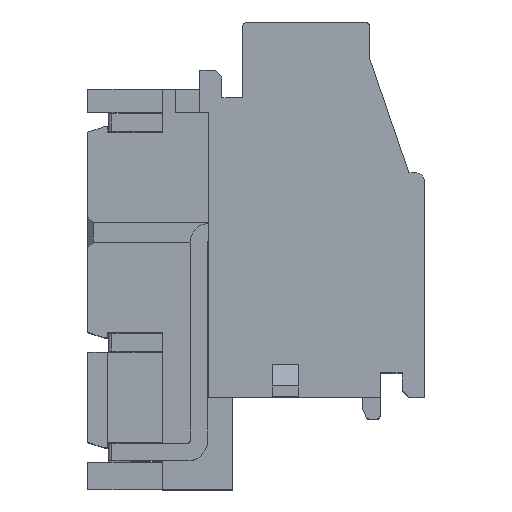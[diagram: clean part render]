
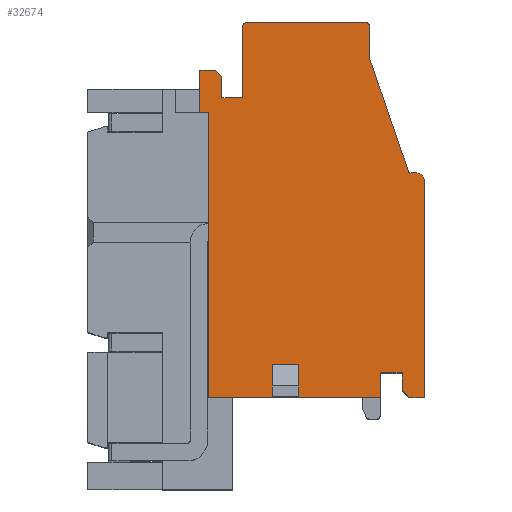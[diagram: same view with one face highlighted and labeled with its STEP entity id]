
A CAD part, top view. The second image highlights one B-rep face of the part: STEP entity #32674.
In plain terms, the highlighted planar face has unit normal (0, 0, 1).
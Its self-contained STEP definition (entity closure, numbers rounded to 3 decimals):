
#1=DIRECTION('',(-0.707,0.707,0.));
#2=VECTOR('',#1,0.424);
#3=CARTESIAN_POINT('',(0.6,14.55,10.));
#4=LINE('',#3,#2);
#5=CARTESIAN_POINT('',(1.75,16.85,10.));
#6=DIRECTION('',(0.,0.,1.));
#7=DIRECTION('',(0.,1.,0.));
#8=AXIS2_PLACEMENT_3D('',#5,#6,#7);
#10=CARTESIAN_POINT('',(7.1,16.85,10.));
#11=DIRECTION('',(0.,0.,1.));
#12=DIRECTION('',(1.,0.,0.));
#13=AXIS2_PLACEMENT_3D('',#10,#11,#12);
#15=DIRECTION('',(-0.324,0.946,0.));
#16=VECTOR('',#15,5.55);
#17=CARTESIAN_POINT('',(9.1,10.2,10.));
#18=LINE('',#17,#16);
#19=CARTESIAN_POINT('',(9.4,9.8,10.));
#20=DIRECTION('',(0.,0.,1.));
#21=DIRECTION('',(1.,0.,0.));
#22=AXIS2_PLACEMENT_3D('',#19,#20,#21);
#24=DIRECTION('',(0.707,-0.707,0.));
#25=VECTOR('',#24,0.424);
#26=CARTESIAN_POINT('',(8.8,0.3,10.));
#27=LINE('',#26,#25);
#28=DIRECTION('',(-1.,0.,0.));
#29=VECTOR('',#28,2.9);
#30=CARTESIAN_POINT('',(2.9,0.,10.));
#31=LINE('',#30,#29);
#36=DIRECTION('',(-1.,0.,0.));
#37=VECTOR('',#36,3.7);
#38=CARTESIAN_POINT('',(7.8,0.,10.));
#39=LINE('',#38,#37);
#48=DIRECTION('',(0.,1.,0.));
#49=VECTOR('',#48,12.95);
#50=CARTESIAN_POINT('',(0.,0.,10.));
#51=LINE('',#50,#49);
#434=DIRECTION('',(1.,0.,0.));
#435=VECTOR('',#434,5.35);
#436=CARTESIAN_POINT('',(1.75,17.05,10.));
#437=LINE('',#436,#435);
#5380=DIRECTION('',(0.,1.,0.));
#5381=VECTOR('',#5380,1.9);
#5382=CARTESIAN_POINT('',(-0.4,12.95,10.));
#5383=LINE('',#5382,#5381);
#5392=DIRECTION('',(1.,0.,0.));
#5393=VECTOR('',#5392,0.7);
#5394=CARTESIAN_POINT('',(-0.4,14.85,10.));
#5395=LINE('',#5394,#5393);
#5404=DIRECTION('',(0.,-1.,0.));
#5405=VECTOR('',#5404,0.95);
#5406=CARTESIAN_POINT('',(0.6,14.55,10.));
#5407=LINE('',#5406,#5405);
#5416=DIRECTION('',(1.,0.,0.));
#5417=VECTOR('',#5416,0.95);
#5418=CARTESIAN_POINT('',(0.6,13.6,10.));
#5419=LINE('',#5418,#5417);
#5420=DIRECTION('',(0.,1.,0.));
#5421=VECTOR('',#5420,3.25);
#5422=CARTESIAN_POINT('',(1.55,13.6,10.));
#5423=LINE('',#5422,#5421);
#5444=DIRECTION('',(-1.,0.,0.));
#5445=VECTOR('',#5444,0.4);
#5446=CARTESIAN_POINT('',(0.,12.95,10.));
#5447=LINE('',#5446,#5445);
#18038=DIRECTION('',(0.,1.,0.));
#18039=VECTOR('',#18038,0.8);
#18040=CARTESIAN_POINT('',(8.8,0.3,10.));
#18041=LINE('',#18040,#18039);
#18046=DIRECTION('',(-1.,0.,0.));
#18047=VECTOR('',#18046,1.);
#18048=CARTESIAN_POINT('',(8.8,1.1,10.));
#18049=LINE('',#18048,#18047);
#18050=DIRECTION('',(0.,-1.,0.));
#18051=VECTOR('',#18050,1.1);
#18052=CARTESIAN_POINT('',(7.8,1.1,10.));
#18053=LINE('',#18052,#18051);
#18411=DIRECTION('',(0.,-1.,0.));
#18412=VECTOR('',#18411,9.8);
#18413=CARTESIAN_POINT('',(9.8,9.8,10.));
#18414=LINE('',#18413,#18412);
#22445=DIRECTION('',(-1.,0.,0.));
#22446=VECTOR('',#22445,0.7);
#22447=CARTESIAN_POINT('',(9.8,0.,10.));
#22448=LINE('',#22447,#22446);
#22461=DIRECTION('',(1.,0.,0.));
#22462=VECTOR('',#22461,0.3);
#22463=CARTESIAN_POINT('',(9.1,10.2,10.));
#22464=LINE('',#22463,#22462);
#22473=DIRECTION('',(0.,-1.,0.));
#22474=VECTOR('',#22473,1.4);
#22475=CARTESIAN_POINT('',(7.3,16.85,10.));
#22476=LINE('',#22475,#22474);
#28655=DIRECTION('',(0.,-1.,0.));
#28656=VECTOR('',#28655,1.5);
#28657=CARTESIAN_POINT('',(2.9,1.5,10.));
#28658=LINE('',#28657,#28656);
#28663=DIRECTION('',(-1.,0.,0.));
#28664=VECTOR('',#28663,1.2);
#28665=CARTESIAN_POINT('',(4.1,1.5,10.));
#28666=LINE('',#28665,#28664);
#28671=DIRECTION('',(0.,1.,0.));
#28672=VECTOR('',#28671,1.5);
#28673=CARTESIAN_POINT('',(4.1,0.,10.));
#28674=LINE('',#28673,#28672);
#28691=CARTESIAN_POINT('',(4.1,0.,10.));
#28692=CARTESIAN_POINT('',(4.1,1.5,10.));
#28693=VERTEX_POINT('',#28691);
#28694=VERTEX_POINT('',#28692);
#28695=CARTESIAN_POINT('',(2.9,1.5,10.));
#28696=VERTEX_POINT('',#28695);
#28697=CARTESIAN_POINT('',(2.9,0.,10.));
#28698=VERTEX_POINT('',#28697);
#28699=CARTESIAN_POINT('',(0.,0.,10.));
#28700=VERTEX_POINT('',#28699);
#28701=CARTESIAN_POINT('',(0.,12.95,10.));
#28702=VERTEX_POINT('',#28701);
#28703=CARTESIAN_POINT('',(-0.4,12.95,10.));
#28704=VERTEX_POINT('',#28703);
#28705=CARTESIAN_POINT('',(-0.4,14.85,10.));
#28706=VERTEX_POINT('',#28705);
#28707=CARTESIAN_POINT('',(0.3,14.85,10.));
#28708=VERTEX_POINT('',#28707);
#28709=CARTESIAN_POINT('',(0.6,14.55,10.));
#28710=VERTEX_POINT('',#28709);
#28711=CARTESIAN_POINT('',(0.6,13.6,10.));
#28712=VERTEX_POINT('',#28711);
#28713=CARTESIAN_POINT('',(1.55,13.6,10.));
#28714=VERTEX_POINT('',#28713);
#28715=CARTESIAN_POINT('',(1.55,16.85,10.));
#28716=VERTEX_POINT('',#28715);
#28717=CARTESIAN_POINT('',(1.75,17.05,10.));
#28718=VERTEX_POINT('',#28717);
#28719=CARTESIAN_POINT('',(7.1,17.05,10.));
#28720=VERTEX_POINT('',#28719);
#28721=CARTESIAN_POINT('',(7.3,16.85,10.));
#28722=VERTEX_POINT('',#28721);
#28723=CARTESIAN_POINT('',(7.3,15.45,10.));
#28724=VERTEX_POINT('',#28723);
#28725=CARTESIAN_POINT('',(9.1,10.2,10.));
#28726=VERTEX_POINT('',#28725);
#28727=CARTESIAN_POINT('',(9.4,10.2,10.));
#28728=VERTEX_POINT('',#28727);
#28729=CARTESIAN_POINT('',(9.8,9.8,10.));
#28730=VERTEX_POINT('',#28729);
#28731=CARTESIAN_POINT('',(9.8,0.,10.));
#28732=VERTEX_POINT('',#28731);
#28733=CARTESIAN_POINT('',(9.1,0.,10.));
#28734=VERTEX_POINT('',#28733);
#28735=CARTESIAN_POINT('',(8.8,0.3,10.));
#28736=VERTEX_POINT('',#28735);
#28737=CARTESIAN_POINT('',(8.8,1.1,10.));
#28738=VERTEX_POINT('',#28737);
#28739=CARTESIAN_POINT('',(7.8,1.1,10.));
#28740=VERTEX_POINT('',#28739);
#28741=CARTESIAN_POINT('',(7.8,0.,10.));
#28742=VERTEX_POINT('',#28741);
#32615=CARTESIAN_POINT('',(0.,0.,10.));
#32616=DIRECTION('',(0.,0.,1.));
#32617=DIRECTION('',(1.,0.,0.));
#32618=AXIS2_PLACEMENT_3D('',#32615,#32616,#32617);
#32619=PLANE('',#32618);
#32621=ORIENTED_EDGE('',*,*,#32620,.T.);
#32623=ORIENTED_EDGE('',*,*,#32622,.T.);
#32625=ORIENTED_EDGE('',*,*,#32624,.T.);
#32627=ORIENTED_EDGE('',*,*,#32626,.T.);
#32629=ORIENTED_EDGE('',*,*,#32628,.T.);
#32631=ORIENTED_EDGE('',*,*,#32630,.T.);
#32633=ORIENTED_EDGE('',*,*,#32632,.T.);
#32635=ORIENTED_EDGE('',*,*,#32634,.T.);
#32637=ORIENTED_EDGE('',*,*,#32636,.T.);
#32639=ORIENTED_EDGE('',*,*,#32638,.F.);
#32641=ORIENTED_EDGE('',*,*,#32640,.T.);
#32643=ORIENTED_EDGE('',*,*,#32642,.T.);
#32645=ORIENTED_EDGE('',*,*,#32644,.T.);
#32647=ORIENTED_EDGE('',*,*,#32646,.F.);
#32649=ORIENTED_EDGE('',*,*,#32648,.T.);
#32651=ORIENTED_EDGE('',*,*,#32650,.F.);
#32653=ORIENTED_EDGE('',*,*,#32652,.T.);
#32655=ORIENTED_EDGE('',*,*,#32654,.F.);
#32657=ORIENTED_EDGE('',*,*,#32656,.T.);
#32659=ORIENTED_EDGE('',*,*,#32658,.F.);
#32661=ORIENTED_EDGE('',*,*,#32660,.T.);
#32663=ORIENTED_EDGE('',*,*,#32662,.T.);
#32665=ORIENTED_EDGE('',*,*,#32664,.F.);
#32667=ORIENTED_EDGE('',*,*,#32666,.T.);
#32669=ORIENTED_EDGE('',*,*,#32668,.T.);
#32671=ORIENTED_EDGE('',*,*,#32670,.T.);
#32672=EDGE_LOOP('',(#32621,#32623,#32625,#32627,#32629,#32631,#32633,#32635,
#32637,#32639,#32641,#32643,#32645,#32647,#32649,#32651,#32653,#32655,#32657,
#32659,#32661,#32663,#32665,#32667,#32669,#32671));
#32673=FACE_OUTER_BOUND('',#32672,.F.);
#32674=ADVANCED_FACE('',(#32673),#32619,.T.);
#9=CIRCLE('',#8,0.2);
#14=CIRCLE('',#13,0.2);
#23=CIRCLE('',#22,0.4);
#32620=EDGE_CURVE('',#28742,#28693,#39,.T.);
#32622=EDGE_CURVE('',#28693,#28694,#28674,.T.);
#32624=EDGE_CURVE('',#28694,#28696,#28666,.T.);
#32626=EDGE_CURVE('',#28696,#28698,#28658,.T.);
#32628=EDGE_CURVE('',#28698,#28700,#31,.T.);
#32630=EDGE_CURVE('',#28700,#28702,#51,.T.);
#32632=EDGE_CURVE('',#28702,#28704,#5447,.T.);
#32634=EDGE_CURVE('',#28704,#28706,#5383,.T.);
#32636=EDGE_CURVE('',#28706,#28708,#5395,.T.);
#32638=EDGE_CURVE('',#28710,#28708,#4,.T.);
#32640=EDGE_CURVE('',#28710,#28712,#5407,.T.);
#32642=EDGE_CURVE('',#28712,#28714,#5419,.T.);
#32644=EDGE_CURVE('',#28714,#28716,#5423,.T.);
#32646=EDGE_CURVE('',#28718,#28716,#9,.T.);
#32648=EDGE_CURVE('',#28718,#28720,#437,.T.);
#32650=EDGE_CURVE('',#28722,#28720,#14,.T.);
#32652=EDGE_CURVE('',#28722,#28724,#22476,.T.);
#32654=EDGE_CURVE('',#28726,#28724,#18,.T.);
#32656=EDGE_CURVE('',#28726,#28728,#22464,.T.);
#32658=EDGE_CURVE('',#28730,#28728,#23,.T.);
#32660=EDGE_CURVE('',#28730,#28732,#18414,.T.);
#32662=EDGE_CURVE('',#28732,#28734,#22448,.T.);
#32664=EDGE_CURVE('',#28736,#28734,#27,.T.);
#32666=EDGE_CURVE('',#28736,#28738,#18041,.T.);
#32668=EDGE_CURVE('',#28738,#28740,#18049,.T.);
#32670=EDGE_CURVE('',#28740,#28742,#18053,.T.);
